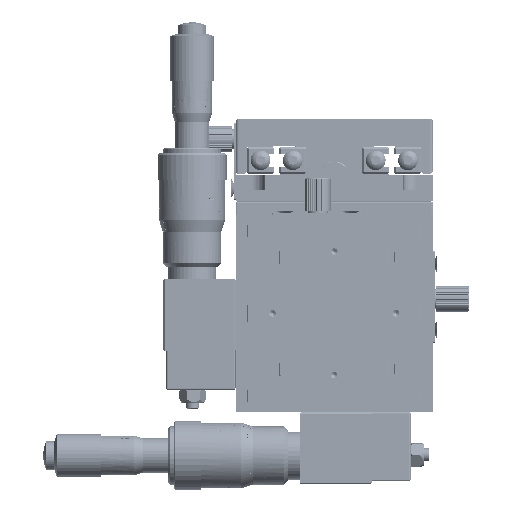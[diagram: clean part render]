
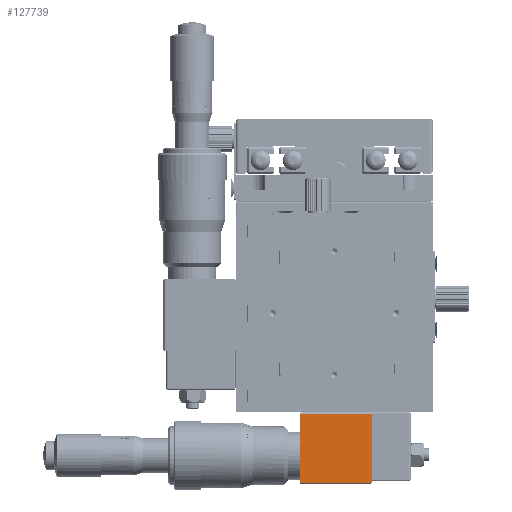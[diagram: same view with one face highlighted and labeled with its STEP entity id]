
A CAD part, front view. The second image highlights one B-rep face of the part: STEP entity #127739.
In plain terms, the highlighted planar face has unit normal (0, -1, 0).
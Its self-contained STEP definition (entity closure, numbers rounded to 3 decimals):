
#275 = AXIS2_PLACEMENT_3D ( 'NONE', #8127, #113994, #34715 ) ;
#6820 = CARTESIAN_POINT ( 'NONE',  ( -11., -11.9, 11. ) ) ;
#8127 = CARTESIAN_POINT ( 'NONE',  ( 0., -11.9, 11. ) ) ;
#9262 = VERTEX_POINT ( 'NONE', #161901 ) ;
#11455 = ORIENTED_EDGE ( 'NONE', *, *, #121130, .F. ) ;
#14757 = CARTESIAN_POINT ( 'NONE',  ( -11., -11.9, -10.5 ) ) ;
#15761 = VECTOR ( 'NONE', #22216, 1000. ) ;
#16423 = VERTEX_POINT ( 'NONE', #14757 ) ;
#19875 = LINE ( 'NONE', #88706, #15761 ) ;
#22216 = DIRECTION ( 'NONE',  ( 1., 0., 0. ) ) ;
#22862 = CARTESIAN_POINT ( 'NONE',  ( -11., -11.9, 10.5 ) ) ;
#28223 = VERTEX_POINT ( 'NONE', #22862 ) ;
#30556 = EDGE_CURVE ( 'NONE', #28223, #16423, #132825, .T. ) ;
#32804 = CARTESIAN_POINT ( 'NONE',  ( -11., -11.9, 10.5 ) ) ;
#34715 = DIRECTION ( 'NONE',  ( 0., 0., 1. ) ) ;
#35992 = CARTESIAN_POINT ( 'NONE',  ( 11., -11.9, -10.5 ) ) ;
#43836 = DIRECTION ( 'NONE',  ( 0., 0., -1. ) ) ;
#46709 = DIRECTION ( 'NONE',  ( 0., 0., -1. ) ) ;
#46888 = PLANE ( 'NONE',  #275 ) ;
#67387 = LINE ( 'NONE', #123157, #106794 ) ;
#82835 = LINE ( 'NONE', #32804, #113939 ) ;
#83697 = FACE_OUTER_BOUND ( 'NONE', #127445, .T. ) ;
#85235 = EDGE_CURVE ( 'NONE', #16423, #163436, #19875, .T. ) ;
#88706 = CARTESIAN_POINT ( 'NONE',  ( 0., -11.9, -10.5 ) ) ;
#97580 = VECTOR ( 'NONE', #46709, 1000. ) ;
#98738 = DIRECTION ( 'NONE',  ( -1., 0., 0. ) ) ;
#106794 = VECTOR ( 'NONE', #43836, 1000. ) ;
#113939 = VECTOR ( 'NONE', #98738, 1000. ) ;
#113994 = DIRECTION ( 'NONE',  ( 0., 1., 0. ) ) ;
#116231 = EDGE_CURVE ( 'NONE', #9262, #28223, #82835, .T. ) ;
#121130 = EDGE_CURVE ( 'NONE', #9262, #163436, #67387, .T. ) ;
#123157 = CARTESIAN_POINT ( 'NONE',  ( 11., -11.9, 11. ) ) ;
#127445 = EDGE_LOOP ( 'NONE', ( #145307, #149168, #11455, #132951 ) ) ;
#127739 = ADVANCED_FACE ( 'NONE', ( #83697 ), #46888, .F. ) ;
#132825 = LINE ( 'NONE', #6820, #97580 ) ;
#132951 = ORIENTED_EDGE ( 'NONE', *, *, #116231, .T. ) ;
#145307 = ORIENTED_EDGE ( 'NONE', *, *, #30556, .T. ) ;
#149168 = ORIENTED_EDGE ( 'NONE', *, *, #85235, .T. ) ;
#161901 = CARTESIAN_POINT ( 'NONE',  ( 11., -11.9, 10.5 ) ) ;
#163436 = VERTEX_POINT ( 'NONE', #35992 ) ;
